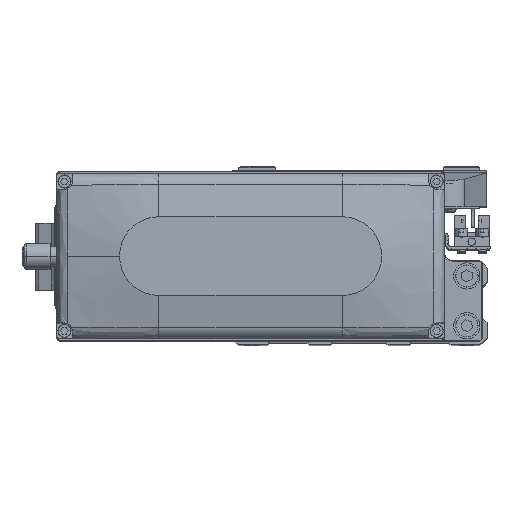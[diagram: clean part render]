
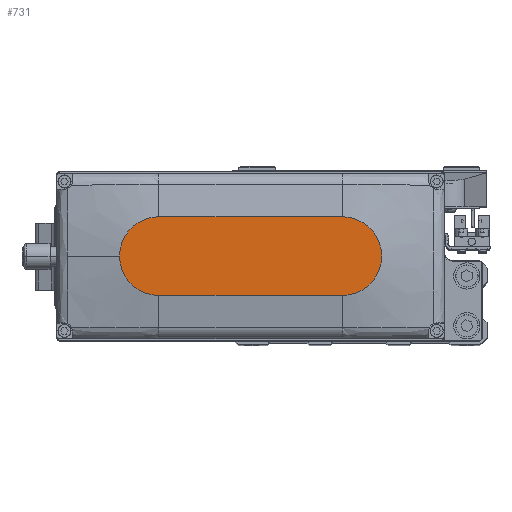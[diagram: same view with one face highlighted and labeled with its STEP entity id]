
A CAD part, top view. The second image highlights one B-rep face of the part: STEP entity #731.
In plain terms, the highlighted planar face has unit normal (0, 0, 1).
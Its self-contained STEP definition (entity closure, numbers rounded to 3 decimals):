
#455 = VERTEX_POINT ( 'NONE', #20317 ) ;
#551 = AXIS2_PLACEMENT_3D ( 'NONE', #16490, #29959, #43395 ) ;
#631 = VERTEX_POINT ( 'NONE', #5321 ) ;
#731 = ADVANCED_FACE ( 'NONE', ( #33245 ), #3038, .T. ) ;
#3038 = PLANE ( 'NONE',  #551 ) ;
#3432 = AXIS2_PLACEMENT_3D ( 'NONE', #24060, #37489, #7284 ) ;
#3594 = VERTEX_POINT ( 'NONE', #17861 ) ;
#3728 = VECTOR ( 'NONE', #13282, 1000. ) ;
#5321 = CARTESIAN_POINT ( 'NONE',  ( 50., 0., 35. ) ) ;
#6136 = EDGE_CURVE ( 'NONE', #631, #455, #42428, .T. ) ;
#6769 = EDGE_CURVE ( 'NONE', #3594, #7106, #30065, .T. ) ;
#6953 = CIRCLE ( 'NONE', #31641, 15. ) ;
#7106 = VERTEX_POINT ( 'NONE', #42806 ) ;
#7284 = DIRECTION ( 'NONE',  ( 1., 0., 0. ) ) ;
#9151 = ORIENTED_EDGE ( 'NONE', *, *, #6769, .T. ) ;
#9261 = DIRECTION ( 'NONE',  ( -1., 0., 0. ) ) ;
#9316 = EDGE_CURVE ( 'NONE', #7106, #631, #22460, .T. ) ;
#10947 = DIRECTION ( 'NONE',  ( 1., 0., 0. ) ) ;
#11082 = ORIENTED_EDGE ( 'NONE', *, *, #37467, .T. ) ;
#12783 = ORIENTED_EDGE ( 'NONE', *, *, #23987, .T. ) ;
#13282 = DIRECTION ( 'NONE',  ( 1., 0., 0. ) ) ;
#14839 = VERTEX_POINT ( 'NONE', #24755 ) ;
#15634 = CARTESIAN_POINT ( 'NONE',  ( -35., 0., 35. ) ) ;
#16490 = CARTESIAN_POINT ( 'NONE',  ( 0., 0., 35. ) ) ;
#17576 = EDGE_LOOP ( 'NONE', ( #12783, #11082, #9151, #19462, #31661 ) ) ;
#17861 = CARTESIAN_POINT ( 'NONE',  ( -35., -15., 35. ) ) ;
#19462 = ORIENTED_EDGE ( 'NONE', *, *, #9316, .T. ) ;
#20317 = CARTESIAN_POINT ( 'NONE',  ( 35., 15., 35. ) ) ;
#22460 = CIRCLE ( 'NONE', #3432, 15. ) ;
#23418 = AXIS2_PLACEMENT_3D ( 'NONE', #27734, #41171, #10947 ) ;
#23987 = EDGE_CURVE ( 'NONE', #455, #14839, #26028, .T. ) ;
#24060 = CARTESIAN_POINT ( 'NONE',  ( 35., 0., 35. ) ) ;
#24755 = CARTESIAN_POINT ( 'NONE',  ( -35., 15., 35. ) ) ;
#26028 = LINE ( 'NONE', #39467, #29039 ) ;
#27734 = CARTESIAN_POINT ( 'NONE',  ( 35., 0., 35. ) ) ;
#29039 = VECTOR ( 'NONE', #9261, 1000. ) ;
#29112 = DIRECTION ( 'NONE',  ( 0., 0., 1. ) ) ;
#29959 = DIRECTION ( 'NONE',  ( 0., 0., 1. ) ) ;
#30065 = LINE ( 'NONE', #43508, #3728 ) ;
#31641 = AXIS2_PLACEMENT_3D ( 'NONE', #15634, #29112, #42537 ) ;
#31661 = ORIENTED_EDGE ( 'NONE', *, *, #6136, .T. ) ;
#33245 = FACE_OUTER_BOUND ( 'NONE', #17576, .T. ) ;
#37467 = EDGE_CURVE ( 'NONE', #14839, #3594, #6953, .T. ) ;
#37489 = DIRECTION ( 'NONE',  ( 0., 0., 1. ) ) ;
#39467 = CARTESIAN_POINT ( 'NONE',  ( -35., 15., 35. ) ) ;
#41171 = DIRECTION ( 'NONE',  ( 0., 0., 1. ) ) ;
#42428 = CIRCLE ( 'NONE', #23418, 15. ) ;
#42537 = DIRECTION ( 'NONE',  ( 1., 0., 0. ) ) ;
#42806 = CARTESIAN_POINT ( 'NONE',  ( 35., -15., 35. ) ) ;
#43395 = DIRECTION ( 'NONE',  ( 1., 0., 0. ) ) ;
#43508 = CARTESIAN_POINT ( 'NONE',  ( -35., -15., 35. ) ) ;
